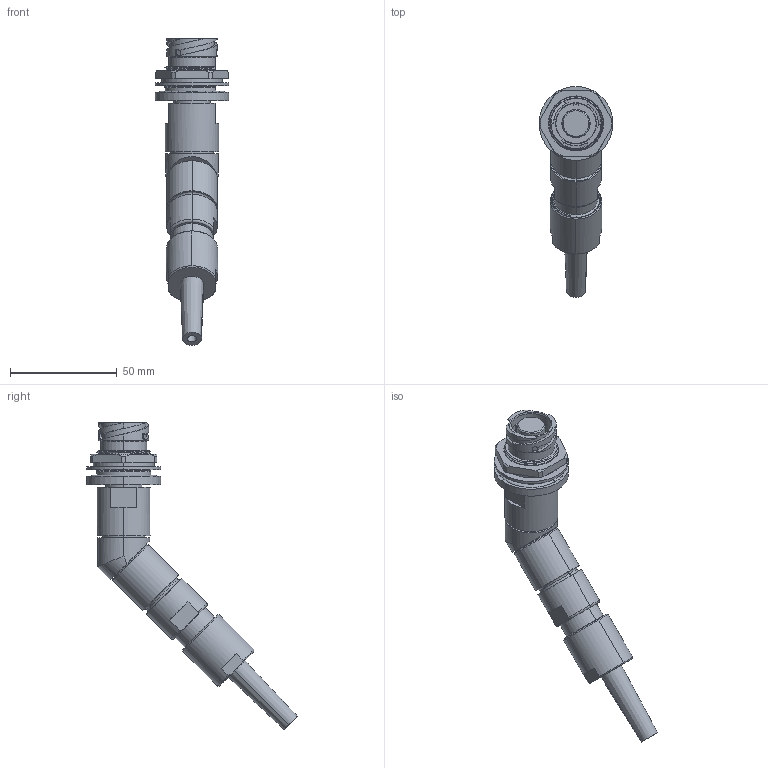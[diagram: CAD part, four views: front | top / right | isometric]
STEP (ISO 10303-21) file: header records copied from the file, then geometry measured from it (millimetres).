
FILE_DESCRIPTION (( 'STEP AP214' ), '1' );
FILE_NAME ('QLINK45-RJBX-13XX-SXXX-RA.STEP', '2025-12-17T16:16:54', ( '' ), ( '' ), 'SwSTEP 2.0', 'SolidWorks 2024', '' );
FILE_SCHEMA (( 'AUTOMOTIVE_DESIGN' ));
Length unit declared in the file: millimetre
Products named in the file (1): QLINK45-RJBX-13XX-SXXX-RA
Bounding box: 34.67 x 98.77 x 144.01 mm (x, y, z)
Volume: 63968 mm3; surface area: 21763.7 mm2
Topology: 2 solids, 2 shells, 279 faces, 711 edges, 454 vertices
Faces by surface type: cylinder 88, plane 60, cone 57, bspline 53, torus 21
Entity records: 24181 total; most frequent: CARTESIAN_POINT 18023, ORIENTED_EDGE 1422, DIRECTION 1143, EDGE_CURVE 711, AXIS2_PLACEMENT_3D 471, VERTEX_POINT 454, EDGE_LOOP 307, FACE_OUTER_BOUND 279
